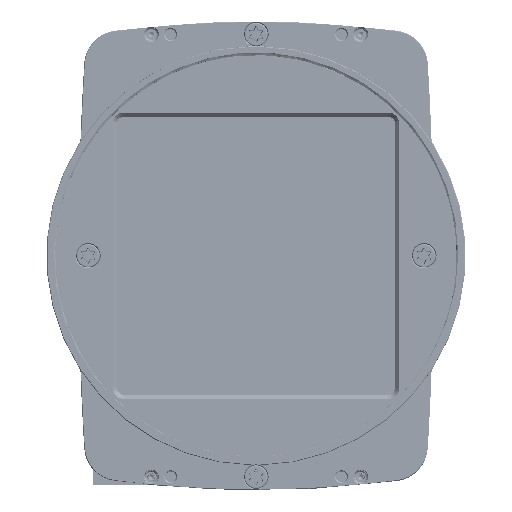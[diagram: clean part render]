
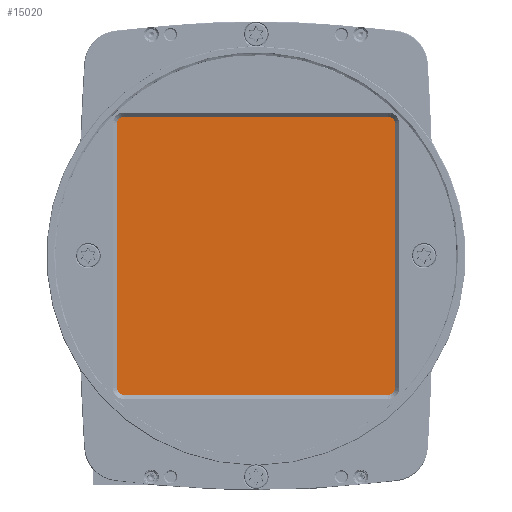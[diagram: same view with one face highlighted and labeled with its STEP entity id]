
A CAD part, top view. The second image highlights one B-rep face of the part: STEP entity #15020.
In plain terms, the highlighted planar face has unit normal (0, 0, 1).
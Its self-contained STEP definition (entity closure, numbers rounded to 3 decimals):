
#5579=FACE_OUTER_BOUND('',#23647,.T.);
#9207=LINE('',#135845,#12093);
#9211=LINE('',#135854,#12097);
#9215=LINE('',#135863,#12101);
#9217=LINE('',#135867,#12103);
#9225=LINE('',#135881,#12111);
#9226=LINE('',#135882,#12112);
#9227=LINE('',#135883,#12113);
#9228=LINE('',#135884,#12114);
#12093=VECTOR('',#68199,1.);
#12097=VECTOR('',#68205,1.);
#12101=VECTOR('',#68211,1.);
#12103=VECTOR('',#68215,1.);
#12111=VECTOR('',#68227,1.);
#12112=VECTOR('',#68228,1.);
#12113=VECTOR('',#68229,1.);
#12114=VECTOR('',#68230,1.);
#15020=ADVANCED_FACE('',(#5579),#18620,.T.);
#18620=PLANE('',#59863);
#23647=EDGE_LOOP('',(#30455,#30456,#30457,#30458,#30459,#30460,#30461,#30462));
#30455=ORIENTED_EDGE('',*,*,#49425,.T.);
#30456=ORIENTED_EDGE('',*,*,#49435,.T.);
#30457=ORIENTED_EDGE('',*,*,#49427,.T.);
#30458=ORIENTED_EDGE('',*,*,#49436,.T.);
#30459=ORIENTED_EDGE('',*,*,#49417,.T.);
#30460=ORIENTED_EDGE('',*,*,#49437,.T.);
#30461=ORIENTED_EDGE('',*,*,#49421,.T.);
#30462=ORIENTED_EDGE('',*,*,#49438,.T.);
#43821=VERTEX_POINT('',#135844);
#43822=VERTEX_POINT('',#135846);
#43825=VERTEX_POINT('',#135853);
#43826=VERTEX_POINT('',#135855);
#43829=VERTEX_POINT('',#135862);
#43830=VERTEX_POINT('',#135864);
#43831=VERTEX_POINT('',#135868);
#43832=VERTEX_POINT('',#135869);
#49417=EDGE_CURVE('',#43822,#43821,#9207,.T.);
#49421=EDGE_CURVE('',#43826,#43825,#9211,.T.);
#49425=EDGE_CURVE('',#43830,#43829,#9215,.T.);
#49427=EDGE_CURVE('',#43831,#43832,#9217,.T.);
#49435=EDGE_CURVE('',#43829,#43831,#9225,.T.);
#49436=EDGE_CURVE('',#43832,#43822,#9226,.T.);
#49437=EDGE_CURVE('',#43821,#43826,#9227,.T.);
#49438=EDGE_CURVE('',#43825,#43830,#9228,.T.);
#59863=AXIS2_PLACEMENT_3D('',#135885,#68231,#68232);
#68199=DIRECTION('',(1.,0.,0.));
#68205=DIRECTION('',(0.,1.,0.));
#68211=DIRECTION('',(-1.,0.,0.));
#68215=DIRECTION('',(0.,-1.,0.));
#68227=DIRECTION('',(-0.707,-0.707,0.));
#68228=DIRECTION('',(0.707,-0.707,0.));
#68229=DIRECTION('',(0.707,0.707,0.));
#68230=DIRECTION('',(-0.707,0.707,0.));
#68231=DIRECTION('',(0.,0.,1.));
#68232=DIRECTION('',(1.,0.,0.));
#135844=CARTESIAN_POINT('',(33.9,-35.9,3.6));
#135845=CARTESIAN_POINT('',(-35.9,-35.9,3.6));
#135846=CARTESIAN_POINT('',(-33.9,-35.9,3.6));
#135853=CARTESIAN_POINT('',(35.9,33.9,3.6));
#135854=CARTESIAN_POINT('',(35.9,-35.9,3.6));
#135855=CARTESIAN_POINT('',(35.9,-33.9,3.6));
#135862=CARTESIAN_POINT('',(-33.9,35.9,3.6));
#135863=CARTESIAN_POINT('',(35.9,35.9,3.6));
#135864=CARTESIAN_POINT('',(33.9,35.9,3.6));
#135867=CARTESIAN_POINT('',(-35.9,35.9,3.6));
#135868=CARTESIAN_POINT('',(-35.9,33.9,3.6));
#135869=CARTESIAN_POINT('',(-35.9,-33.9,3.6));
#135881=CARTESIAN_POINT('',(-34.9,34.9,3.6));
#135882=CARTESIAN_POINT('',(-34.9,-34.9,3.6));
#135883=CARTESIAN_POINT('',(34.9,-34.9,3.6));
#135884=CARTESIAN_POINT('',(34.9,34.9,3.6));
#135885=CARTESIAN_POINT('',(0.,0.,3.6));
